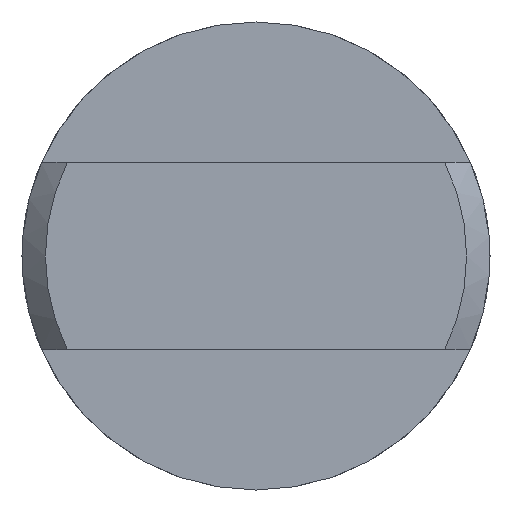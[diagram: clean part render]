
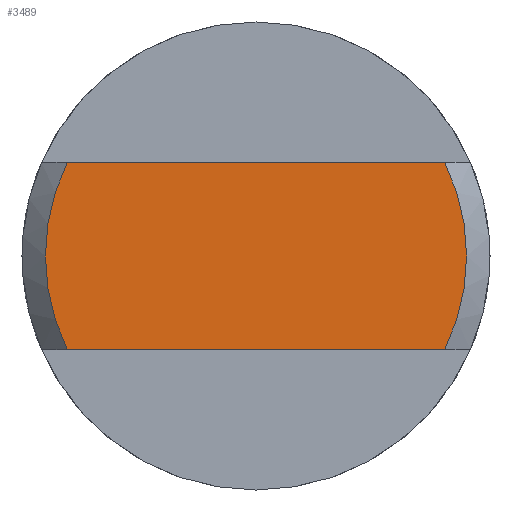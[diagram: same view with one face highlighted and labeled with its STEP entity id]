
A CAD part, left-side view. The second image highlights one B-rep face of the part: STEP entity #3489.
In plain terms, the highlighted planar face has unit normal (-1, 0, 0).
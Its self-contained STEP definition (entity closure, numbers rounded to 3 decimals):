
#6 = EDGE_CURVE ( 'NONE', #4489, #6658, #373, .T. ) ;
#178 = VECTOR ( 'NONE', #6010, 1000. ) ;
#373 = LINE ( 'NONE', #1620, #1593 ) ;
#629 = ORIENTED_EDGE ( 'NONE', *, *, #5271, .T. ) ;
#945 = CIRCLE ( 'NONE', #2145, 4.5 ) ;
#1028 = DIRECTION ( 'NONE',  ( -1., 0., 0. ) ) ;
#1145 = ORIENTED_EDGE ( 'NONE', *, *, #3134, .F. ) ;
#1404 = CARTESIAN_POINT ( 'NONE',  ( -28.5, 4.031, -2. ) ) ;
#1593 = VECTOR ( 'NONE', #6731, 1000. ) ;
#1620 = CARTESIAN_POINT ( 'NONE',  ( -28.5, 0., -2. ) ) ;
#1675 = DIRECTION ( 'NONE',  ( 0., 0., -1. ) ) ;
#1775 = DIRECTION ( 'NONE',  ( -1., 0., 0. ) ) ;
#2145 = AXIS2_PLACEMENT_3D ( 'NONE', #6552, #1028, #5354 ) ;
#2900 = VERTEX_POINT ( 'NONE', #5230 ) ;
#3010 = VERTEX_POINT ( 'NONE', #6463 ) ;
#3017 = CARTESIAN_POINT ( 'NONE',  ( -28.5, -4.031, -2. ) ) ;
#3021 = ORIENTED_EDGE ( 'NONE', *, *, #4660, .T. ) ;
#3134 = EDGE_CURVE ( 'NONE', #3010, #2900, #6625, .T. ) ;
#3344 = AXIS2_PLACEMENT_3D ( 'NONE', #4861, #4166, #1675 ) ;
#3489 = ADVANCED_FACE ( 'NONE', ( #6667 ), #7270, .F. ) ;
#4166 = DIRECTION ( 'NONE',  ( 1., 0., 0. ) ) ;
#4172 = EDGE_LOOP ( 'NONE', ( #7175, #3021, #1145, #629 ) ) ;
#4292 = AXIS2_PLACEMENT_3D ( 'NONE', #7480, #1775, #5563 ) ;
#4489 = VERTEX_POINT ( 'NONE', #3017 ) ;
#4660 = EDGE_CURVE ( 'NONE', #4489, #2900, #6904, .T. ) ;
#4861 = CARTESIAN_POINT ( 'NONE',  ( -28.5, 0., 0. ) ) ;
#5230 = CARTESIAN_POINT ( 'NONE',  ( -28.5, -4.031, 2. ) ) ;
#5271 = EDGE_CURVE ( 'NONE', #3010, #6658, #945, .T. ) ;
#5354 = DIRECTION ( 'NONE',  ( 0., 0., -1. ) ) ;
#5563 = DIRECTION ( 'NONE',  ( 0., 0., -1. ) ) ;
#6010 = DIRECTION ( 'NONE',  ( 0., -1., 0. ) ) ;
#6463 = CARTESIAN_POINT ( 'NONE',  ( -28.5, 4.031, 2. ) ) ;
#6552 = CARTESIAN_POINT ( 'NONE',  ( -28.5, 0., 0. ) ) ;
#6625 = LINE ( 'NONE', #6746, #178 ) ;
#6658 = VERTEX_POINT ( 'NONE', #1404 ) ;
#6667 = FACE_OUTER_BOUND ( 'NONE', #4172, .T. ) ;
#6731 = DIRECTION ( 'NONE',  ( 0., 1., 0. ) ) ;
#6746 = CARTESIAN_POINT ( 'NONE',  ( -28.5, 0., 2. ) ) ;
#6904 = CIRCLE ( 'NONE', #4292, 4.5 ) ;
#7175 = ORIENTED_EDGE ( 'NONE', *, *, #6, .F. ) ;
#7270 = PLANE ( 'NONE',  #3344 ) ;
#7480 = CARTESIAN_POINT ( 'NONE',  ( -28.5, 0., 0. ) ) ;
